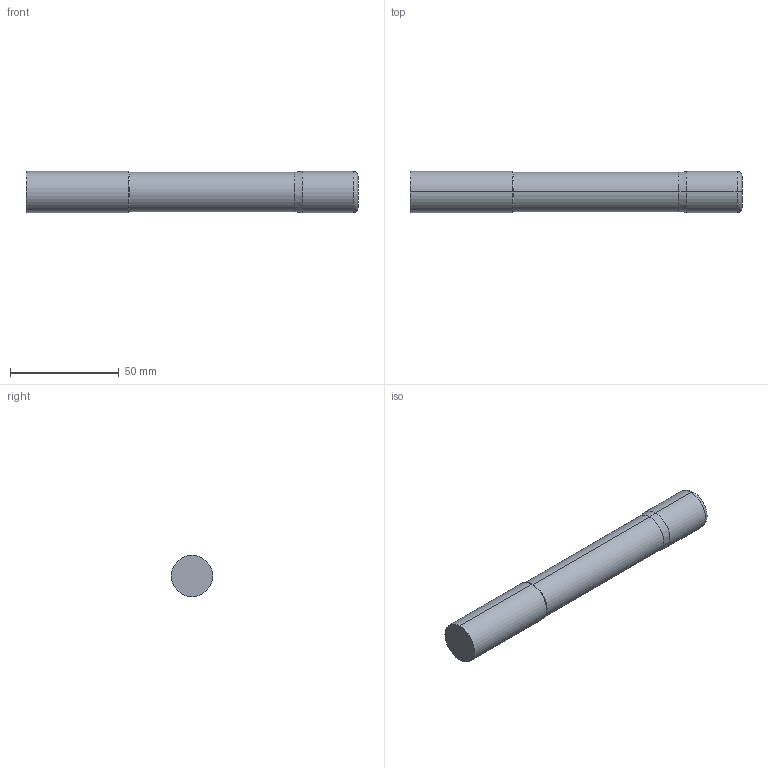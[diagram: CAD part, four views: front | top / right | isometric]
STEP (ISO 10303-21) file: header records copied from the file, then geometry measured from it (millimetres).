
FILE_DESCRIPTION (( 'STEP AP214' ), '1' );
FILE_NAME ('SSIRNX70750-090.STEP', '2025-05-30T15:11:53', ( '' ), ( '' ), 'SwSTEP 2.0', 'SolidWorks 2023', '' );
FILE_SCHEMA (( 'AUTOMOTIVE_DESIGN' ));
Length unit declared in the file: inch
Products named in the file (3): SSIRNX70750-090; SSI7 Cut Only_SSIRNX70750-090; SSI7 Shank Only_SSIRNX70750-090
Assembly tree (2 placements, depth 2):
  SSIRNX70750-090
    SSI7 Cut Only_SSIRNX70750-090
    SSI7 Shank Only_SSIRNX70750-090
Bounding box: 152.4 x 19.05 x 19.05 mm (x, y, z)
Volume: 41348.3 mm3; surface area: 9990.6 mm2
Topology: 2 solids, 2 shells, 16 faces, 28 edges, 16 vertices
Faces by surface type: cylinder 6, plane 4, cone 4, torus 2
Entity records: 484 total; most frequent: DIRECTION 88, CARTESIAN_POINT 65, ORIENTED_EDGE 56, AXIS2_PLACEMENT_3D 39, EDGE_CURVE 28, CIRCLE 18, VERTEX_POINT 16, ADVANCED_FACE 16
